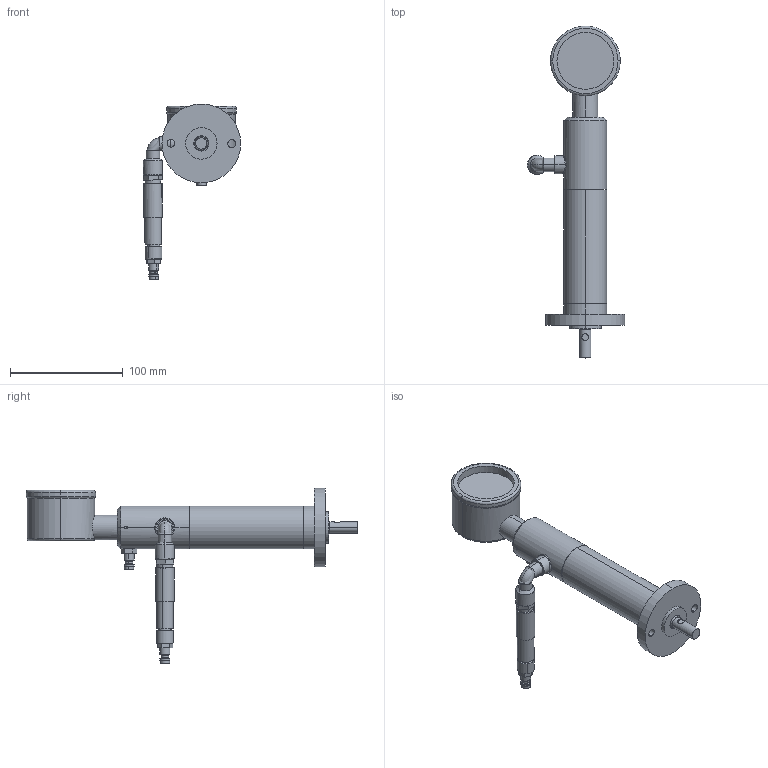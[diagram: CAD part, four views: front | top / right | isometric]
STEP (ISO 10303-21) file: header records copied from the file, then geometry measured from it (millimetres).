
FILE_DESCRIPTION (( 'STEP AP214' ), '1' );
FILE_NAME ('PMR28TGA.STEP', '2019-03-19T10:01:22', ( '' ), ( '' ), 'SwSTEP 2.0', 'SolidWorks 2018', '' );
FILE_SCHEMA (( 'AUTOMOTIVE_DESIGN' ));
Length unit declared in the file: millimetre
Products named in the file (13): Kopie von Deckel PLR 11^PMR28TGA; Kopie von Stator PLR 11^PMR28TGA; Kopie von Rotor PLR 11^PMR28TGA; Kopie von Motorblock PLR 11^PMR28TGA; PMR28TGA; Tacho; Flansch Serie PMR; Rändelschraube GA; Schnellkupplung; Ventil; Rändelschraube; Winkel; Kopie von Distanzring PLR 11^PMR28TGA
Assembly tree (13 placements, depth 3):
  PMR28TGA
    Kopie von Motorblock PLR 11^PMR28TGA
    Kopie von Rotor PLR 11^PMR28TGA
    Kopie von Stator PLR 11^PMR28TGA
    Kopie von Deckel PLR 11^PMR28TGA
    Kopie von Distanzring PLR 11^PMR28TGA
    Winkel
    Rändelschraube GA
      Rändelschraube
      Ventil
      Schnellkupplung
    Schnellkupplung
    Flansch Serie PMR
    Tacho
Bounding box: 86.58 x 295 x 156.33 mm (x, y, z)
Volume: 298399.9 mm3; surface area: 107809.8 mm2
Topology: 12 solids, 12 shells, 298 faces, 621 edges, 390 vertices
Faces by surface type: cylinder 152, plane 94, cone 32, torus 17, bspline 3
Entity records: 8907 total; most frequent: CARTESIAN_POINT 2213, DIRECTION 1392, ORIENTED_EDGE 1098, AXIS2_PLACEMENT_3D 595, EDGE_CURVE 549, VERTEX_POINT 348, EDGE_LOOP 325, CIRCLE 314
